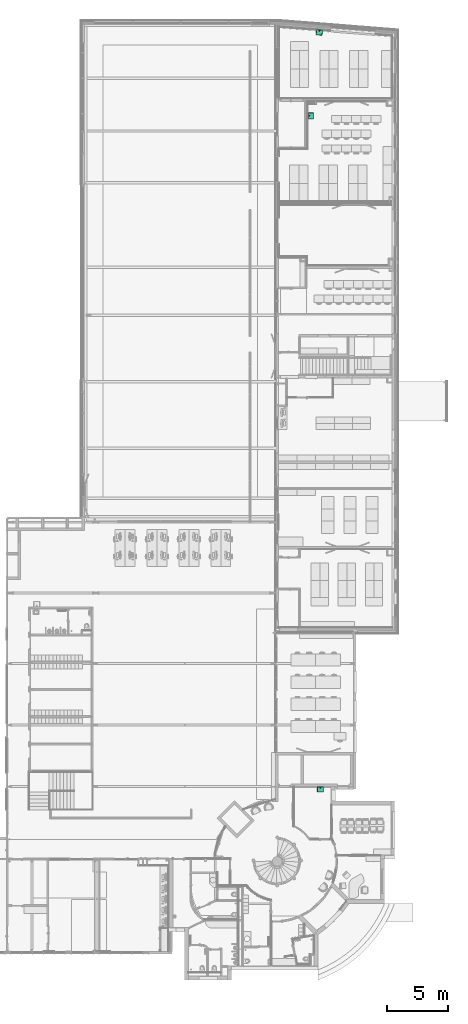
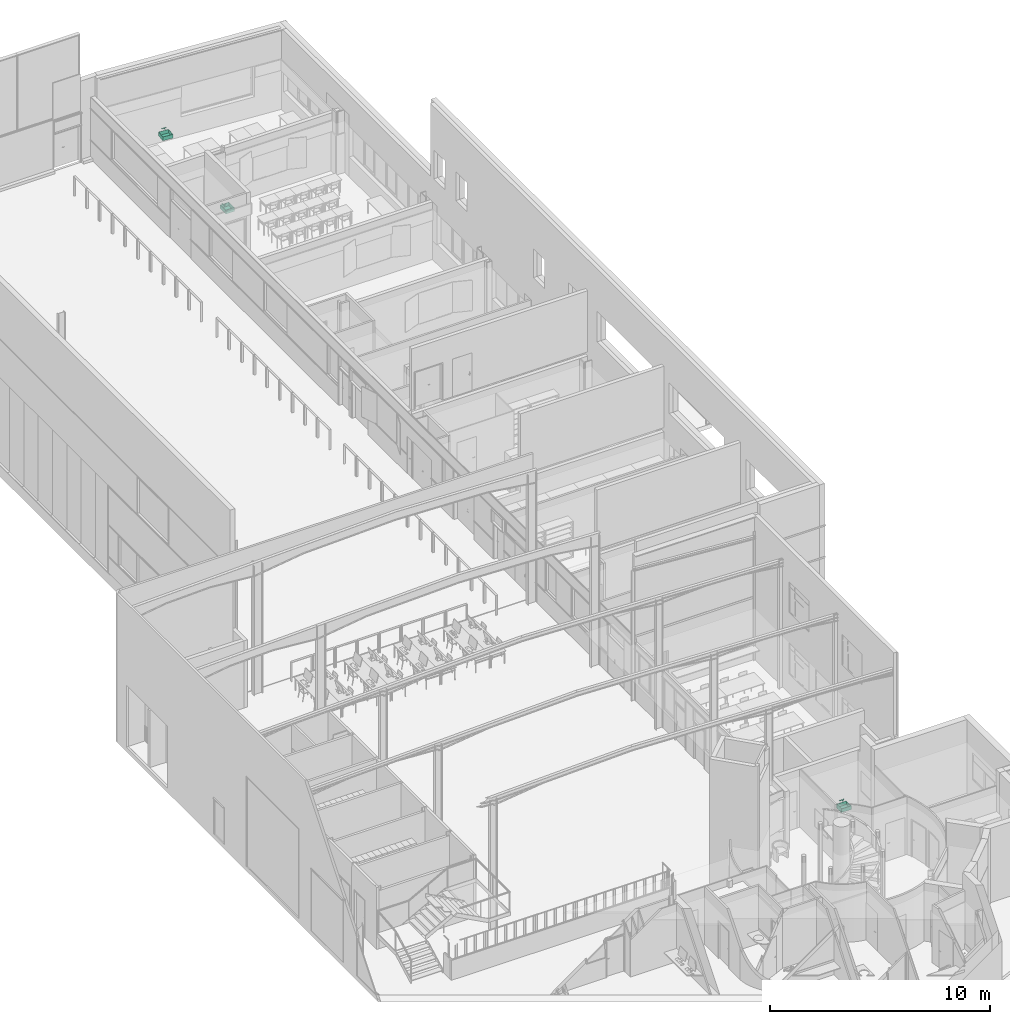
# One storey, part 112 of 137: 3 flow terminals.
"""IFC2X3 building model written with IfcOpenShell, lengths in centimetres."""

from ifc_helpers import new_model, entity, si_unit, converted_unit, derived_unit, direction, frame, origin, place, context, subcontext, project, spatial, faceted_brep, source, transform, mapped, element, save


model = new_model("IFC2X3")

# Units and contexts
model_context = context("Model", 3, precision=0.001, world=origin(), true_north=direction((6.12303176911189e-17, 1.0)))
body_context = subcontext(model_context, "Body", "Model", "MODEL_VIEW")
ifc_project = project(units=[si_unit("LENGTHUNIT", "METRE", prefix="CENTI"), si_unit("AREAUNIT", "SQUARE_METRE"), si_unit("VOLUMEUNIT", "CUBIC_METRE"), converted_unit("PLANEANGLEUNIT", "DEGREE", entity("IfcRatioMeasure", 0.0174532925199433), si_unit("PLANEANGLEUNIT", "RADIAN"), dimensions=[0, 0, 0, 0, 0, 0, 0]), si_unit("MASSUNIT", "GRAM", prefix="KILO"), si_unit("TIMEUNIT", "SECOND"), si_unit("FREQUENCYUNIT", "HERTZ"), si_unit("THERMODYNAMICTEMPERATUREUNIT", "DEGREE_CELSIUS"), derived_unit("THERMALTRANSMITTANCEUNIT", [(si_unit("MASSUNIT", "GRAM", prefix="KILO"), 1), (si_unit("THERMODYNAMICTEMPERATUREUNIT", "KELVIN"), -1), (si_unit("TIMEUNIT", "SECOND"), -3)]), derived_unit("VOLUMETRICFLOWRATEUNIT", [(si_unit("LENGTHUNIT", "METRE"), 3), (si_unit("TIMEUNIT", "SECOND"), -1)]), si_unit("ELECTRICCURRENTUNIT", "AMPERE"), si_unit("ELECTRICVOLTAGEUNIT", "VOLT"), si_unit("POWERUNIT", "WATT"), si_unit("FORCEUNIT", "NEWTON", prefix="KILO"), si_unit("ILLUMINANCEUNIT", "LUX"), si_unit("LUMINOUSFLUXUNIT", "LUMEN"), si_unit("LUMINOUSINTENSITYUNIT", "CANDELA"), derived_unit("USERDEFINED", [(si_unit("MASSUNIT", "GRAM", prefix="KILO"), -1), (si_unit("LENGTHUNIT", "METRE"), -2), (si_unit("TIMEUNIT", "SECOND"), 3), (si_unit("LUMINOUSFLUXUNIT", "LUMEN"), 1)]), derived_unit("LINEARVELOCITYUNIT", [(si_unit("LENGTHUNIT", "METRE"), 1), (si_unit("TIMEUNIT", "SECOND"), -1)]), si_unit("PRESSUREUNIT", "PASCAL"), derived_unit("USERDEFINED", [(si_unit("LENGTHUNIT", "METRE"), -2), (si_unit("MASSUNIT", "GRAM", prefix="KILO"), 1), (si_unit("TIMEUNIT", "SECOND"), -2)])], contexts=[model_context])

# Site, building, storey, space
site_placement = place(None, frame((8.62739174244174, -249.285249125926, 0.0)))
site = spatial("IfcSite", under=ifc_project, at=site_placement, Name="Default", CompositionType="ELEMENT")
building_placement = place(site_placement, origin())
building = spatial("IfcBuilding", under=site, at=building_placement, CompositionType="ELEMENT")
storey_placement = place(building_placement, origin())
storey = spatial("IfcBuildingStorey", under=building, at=storey_placement, Name="RDC", CompositionType="ELEMENT", Elevation=-8.82465566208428e-11)
space_1_placement = place(storey_placement, origin())
space_1 = spatial("IfcSpace", under=storey, at=space_1_placement, Name="046", CompositionType="ELEMENT", InteriorOrExteriorSpace="INTERNAL")

# Flow terminal
shared_shape = source(origin(), body_context, "Body", "Brep", [
    faceted_brep([(25.5000000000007, 0.0, 20.6175000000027), (-25.4999999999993, 0.0, 20.6175000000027), (-25.4999999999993, -45.5000000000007, 20.6175000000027), (25.5000000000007, -45.5000000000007, 20.6175000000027), (24.2300000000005, -1.27000000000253, 20.6175000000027), (24.2300000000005, -44.2300000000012, 20.6175000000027), (-24.2299999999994, -44.2300000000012, 20.6175000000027), (-24.2299999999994, -1.27000000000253, 20.6175000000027), (25.5000000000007, 0.0, 19.3475000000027), (25.5000000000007, -45.5000000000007, 19.3475000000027), (-25.4999999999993, -45.5000000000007, 19.3475000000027), (-25.4999999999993, 0.0, 19.3475000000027), (24.2300000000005, -1.27000000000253, 19.3475000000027), (-24.2299999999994, -1.27000000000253, 19.3475000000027), (-24.2299999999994, -44.2300000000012, 19.3475000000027), (24.2300000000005, -44.2300000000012, 19.3475000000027)], [[[0, 1, 2, 3], [4, 5, 6, 7]], [[8, 9, 10, 11], [12, 13, 14, 15]], [[1, 0, 8, 11]], [[2, 1, 11, 10]], [[3, 2, 10, 9]], [[0, 3, 9, 8]], [[5, 4, 12, 15]], [[6, 5, 15, 14]], [[7, 6, 14, 13]], [[4, 7, 13, 12]]]),
    faceted_brep([(2.19970452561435, -13.9700000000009, 0.317499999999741), (2.45345159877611, -13.3574003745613, 0.317499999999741), (2.54000000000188, -12.7000000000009, 0.317499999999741), (2.45345159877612, -12.0425996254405, 0.317499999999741), (2.19970452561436, -11.4300000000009, 0.317499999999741), (1.79605122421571, -10.9039487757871, 0.317499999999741), (1.27000000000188, -10.5002954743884, 0.317499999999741), (0.657400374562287, -10.2465484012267, 0.317499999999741), (0.0, -10.1600000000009, 0.317499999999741), (-0.657400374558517, -10.2465484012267, 0.317499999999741), (-1.26999999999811, -10.5002954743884, 0.317499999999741), (-1.79605122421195, -10.9039487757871, 0.317499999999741), (-2.19970452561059, -11.4300000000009, 0.317499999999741), (-2.45345159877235, -12.0425996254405, 0.317499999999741), (-2.53999999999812, -12.7000000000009, 0.317499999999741), (-2.45345159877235, -13.3574003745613, 0.317499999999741), (-2.1997045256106, -13.9700000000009, 0.317499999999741), (-1.79605122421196, -14.4960512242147, 0.317499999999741), (-1.26999999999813, -14.8997045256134, 0.317499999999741), (-0.657400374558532, -15.1534515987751, 0.317499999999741), (0.0, -15.2400000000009, 0.317499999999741), (0.657400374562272, -15.1534515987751, 0.317499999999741), (1.27000000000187, -14.8997045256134, 0.317499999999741), (1.7960512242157, -14.4960512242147, 0.317499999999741), (-0.657400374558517, -10.2465484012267, 0.0), (0.0, -10.1600000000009, 0.0), (0.657400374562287, -10.2465484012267, 0.0), (1.27000000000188, -10.5002954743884, 0.0), (1.79605122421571, -10.9039487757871, 0.0), (2.19970452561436, -11.4300000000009, 0.0), (2.45345159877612, -12.0425996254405, 0.0), (2.54000000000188, -12.7000000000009, 0.0), (2.45345159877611, -13.3574003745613, 0.0), (2.19970452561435, -13.9700000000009, 0.0), (1.7960512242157, -14.4960512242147, 0.0), (1.27000000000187, -14.8997045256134, 0.0), (0.657400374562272, -15.1534515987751, 0.0), (0.0, -15.2400000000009, 0.0), (-0.657400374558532, -15.1534515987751, 0.0), (-1.26999999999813, -14.8997045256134, 0.0), (-1.79605122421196, -14.4960512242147, 0.0), (-2.1997045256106, -13.9700000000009, 0.0), (-2.45345159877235, -13.3574003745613, 0.0), (-2.53999999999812, -12.7000000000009, 0.0), (-2.45345159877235, -12.0425996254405, 0.0), (-2.19970452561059, -11.4300000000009, 0.0), (-1.79605122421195, -10.9039487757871, 0.0), (-1.26999999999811, -10.5002954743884, 0.0)], [[[0, 1, 2, 3, 4, 5, 6, 7, 8, 9, 10, 11, 12, 13, 14, 15, 16, 17, 18, 19, 20, 21, 22, 23]], [[24, 25, 26, 27, 28, 29, 30, 31, 32, 33, 34, 35, 36, 37, 38, 39, 40, 41, 42, 43, 44, 45, 46, 47]], [[42, 15, 14, 43]], [[41, 16, 15, 42]], [[18, 17, 40, 39]], [[41, 40, 17, 16]], [[19, 18, 39, 38]], [[20, 19, 38, 37]], [[36, 21, 20, 37]], [[35, 22, 21, 36]], [[0, 23, 34, 33]], [[35, 34, 23, 22]], [[1, 0, 33, 32]], [[2, 1, 32, 31]], [[30, 3, 2, 31]], [[29, 4, 3, 30]], [[6, 5, 28, 27]], [[29, 28, 5, 4]], [[7, 6, 27, 26]], [[8, 7, 26, 25]], [[24, 9, 8, 25]], [[47, 10, 9, 24]], [[12, 11, 46, 45]], [[47, 46, 11, 10]], [[13, 12, 45, 44]], [[14, 13, 44, 43]]]),
    faceted_brep([(25.5000000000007, 0.0, 19.3475000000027), (-25.4999999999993, 0.0, 19.3475000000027), (-25.4999999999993, -45.5000000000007, 19.3475000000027), (25.5000000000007, -45.5000000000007, 19.3475000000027), (25.1825000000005, -0.31750000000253, 19.3475000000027), (25.1825000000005, -45.1825000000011, 19.3475000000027), (-25.1824999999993, -45.1825000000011, 19.3475000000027), (-25.1824999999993, -0.317500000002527, 19.3475000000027), (25.5000000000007, 0.0, 0.0), (25.5000000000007, -45.5000000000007, 0.0), (-25.4999999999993, -45.5000000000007, 0.0), (-25.4999999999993, 0.0, 0.0), (25.1825000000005, -0.31750000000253, 0.317499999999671), (25.1825000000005, -45.1825000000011, 0.317499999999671), (-25.1824999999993, -45.1825000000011, 0.317499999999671), (-25.1824999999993, -0.317500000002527, 0.317499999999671)], [[[0, 1, 2, 3], [4, 5, 6, 7]], [[8, 9, 10, 11]], [[1, 0, 8, 11]], [[2, 1, 11, 10]], [[3, 2, 10, 9]], [[0, 3, 9, 8]], [[5, 4, 12, 13]], [[6, 5, 13, 14]], [[7, 6, 14, 15]], [[4, 7, 15, 12]], [[13, 12, 15, 14]]]),
    faceted_brep([(-9.83129981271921, -4.08422579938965, 38.4099999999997), (-9.52499999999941, -3.95735226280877, 38.4099999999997), (-9.26197438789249, -3.75552561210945, 38.4099999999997), (-9.06014773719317, -3.49250000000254, 38.4099999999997), (-8.93327420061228, -3.18620018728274, 38.4099999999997), (-8.8899999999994, -2.85750000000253, 38.4099999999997), (-8.93327420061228, -2.52879981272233, 38.4099999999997), (-9.06014773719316, -2.22250000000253, 38.4099999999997), (-9.26197438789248, -1.95947438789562, 38.4099999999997), (-9.5249999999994, -1.75764773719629, 38.4099999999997), (-9.8312998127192, -1.63077420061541, 38.4099999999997), (-10.1599999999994, -1.58750000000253, 38.4099999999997), (-10.4887001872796, -1.63077420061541, 38.4099999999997), (-10.7949999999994, -1.75764773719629, 38.4099999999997), (-11.0580256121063, -1.95947438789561, 38.4099999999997), (-11.2598522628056, -2.22250000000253, 38.4099999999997), (-11.3867257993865, -2.52879981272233, 38.4099999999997), (-11.4299999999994, -2.85750000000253, 38.4099999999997), (-11.3867257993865, -3.18620018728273, 38.4099999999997), (-11.2598522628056, -3.49250000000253, 38.4099999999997), (-11.0580256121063, -3.75552561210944, 38.4099999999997), (-10.7949999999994, -3.95735226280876, 38.4099999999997), (-10.4887001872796, -4.08422579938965, 38.4099999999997), (-10.1599999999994, -4.12750000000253, 38.4099999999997), (1.90500000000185, -14.6050000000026, 38.4099999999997), (1.90500000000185, -1.27000000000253, 38.4099999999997), (-1.90499999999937, -1.27000000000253, 38.4099999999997), (-1.90499999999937, -14.6050000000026, 38.4099999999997), (10.7950000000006, -3.95735226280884, 38.4099999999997), (11.0580256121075, -3.75552561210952, 38.4099999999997), (11.2598522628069, -3.4925000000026, 38.4099999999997), (11.3867257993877, -3.18620018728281, 38.4099999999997), (11.4300000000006, -2.8575000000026, 38.4099999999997), (11.3867257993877, -2.5287998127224, 38.4099999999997), (11.2598522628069, -2.2225000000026, 38.4099999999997), (11.0580256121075, -1.95947438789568, 38.4099999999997), (10.7950000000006, -1.75764773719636, 38.4099999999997), (10.4887001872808, -1.63077420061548, 38.4099999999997), (10.1600000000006, -1.5875000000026, 38.4099999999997), (9.83129981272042, -1.63077420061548, 38.4099999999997), (9.52500000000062, -1.75764773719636, 38.4099999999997), (9.26197438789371, -1.95947438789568, 38.4099999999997), (9.06014773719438, -2.22250000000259, 38.4099999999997), (8.9332742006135, -2.52879981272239, 38.4099999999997), (8.89000000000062, -2.85750000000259, 38.4099999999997), (8.9332742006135, -3.18620018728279, 38.4099999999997), (9.06014773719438, -3.49250000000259, 38.4099999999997), (9.2619743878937, -3.75552561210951, 38.4099999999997), (9.52500000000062, -3.95735226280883, 38.4099999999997), (9.83129981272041, -4.08422579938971, 38.4099999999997), (10.1600000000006, -4.1275000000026, 38.4099999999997), (10.4887001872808, -4.08422579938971, 38.4099999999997), (-8.25499999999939, -1.27000000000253, 36.5049999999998), (-8.25499999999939, 0.0, 36.5049999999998), (-9.52499999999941, -1.75764773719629, 36.5049999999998), (-9.26197438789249, -1.95947438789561, 36.5049999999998), (-9.06014773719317, -2.22250000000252, 36.5049999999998), (-8.93327420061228, -2.52879981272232, 36.5049999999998), (-8.8899999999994, -2.85750000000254, 36.5049999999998), (-1.90499999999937, -4.44500000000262, 36.5049999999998), (-1.90499999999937, -1.27000000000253, 36.5049999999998), (-9.83129981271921, -1.63077420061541, 36.5049999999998), (-10.1599999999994, -1.58750000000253, 36.5049999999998), (-12.0649999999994, 0.0, 36.5049999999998), (-10.4887001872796, -1.63077420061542, 36.5049999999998), (-10.7949999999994, -1.7576477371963, 36.5049999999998), (-11.0580256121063, -1.95947438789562, 36.5049999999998), (-11.2598522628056, -2.22250000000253, 36.5049999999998), (-11.3867257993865, -2.52879981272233, 36.5049999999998), (-11.4299999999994, -2.85750000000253, 36.5049999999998), (-12.0649999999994, -4.44500000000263, 36.5049999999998), (-11.3867257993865, -3.18620018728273, 36.5049999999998), (-11.2598522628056, -3.49250000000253, 36.5049999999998), (-11.0580256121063, -3.75552561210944, 36.5049999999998), (-10.7949999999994, -3.95735226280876, 36.5049999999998), (-10.4887001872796, -4.08422579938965, 36.5049999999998), (-10.1599999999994, -4.12750000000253, 36.5049999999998), (-8.93327420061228, -3.18620018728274, 36.5049999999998), (-9.06014773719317, -3.49250000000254, 36.5049999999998), (-9.26197438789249, -3.75552561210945, 36.5049999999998), (-9.52499999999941, -3.95735226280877, 36.5049999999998), (-9.83129981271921, -4.08422579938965, 36.5049999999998), (12.0650000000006, 0.0, 36.5049999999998), (11.2598522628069, -2.22250000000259, 36.5049999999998), (11.3867257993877, -2.52879981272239, 36.5049999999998), (11.0580256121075, -1.95947438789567, 36.5049999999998), (11.4300000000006, -2.8575000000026, 36.5049999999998), (10.7950000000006, -1.75764773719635, 36.5049999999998), (10.4887001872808, -1.63077420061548, 36.5049999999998), (10.1600000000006, -1.5875000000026, 36.5049999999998), (8.25500000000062, 0.0, 36.5049999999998), (12.0650000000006, -4.44500000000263, 36.5049999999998), (9.83129981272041, -1.63077420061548, 36.5049999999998), (9.52500000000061, -1.75764773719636, 36.5049999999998), (8.25500000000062, -1.27000000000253, 36.5049999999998), (9.2619743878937, -1.95947438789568, 36.5049999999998), (9.06014773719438, -2.2225000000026, 36.5049999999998), (8.9332742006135, -2.5287998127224, 36.5049999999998), (8.89000000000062, -2.8575000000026, 36.5049999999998), (1.90500000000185, -4.44500000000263, 36.5049999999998), (1.90500000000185, -1.27000000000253, 36.5049999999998), (10.1600000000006, -4.1275000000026, 36.5049999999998), (8.9332742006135, -3.18620018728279, 36.5049999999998), (9.06014773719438, -3.49250000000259, 36.5049999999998), (9.2619743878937, -3.75552561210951, 36.5049999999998), (9.52500000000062, -3.95735226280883, 36.5049999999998), (9.83129981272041, -4.08422579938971, 36.5049999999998), (10.4887001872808, -4.08422579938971, 36.5049999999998), (11.3867257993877, -3.18620018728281, 36.5049999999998), (11.2598522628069, -3.4925000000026, 36.5049999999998), (11.0580256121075, -3.75552561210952, 36.5049999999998), (10.7950000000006, -3.95735226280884, 36.5049999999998), (-1.09985226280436, -12.0650000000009, 36.5049999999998), (-1.22672579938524, -12.3712998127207, 36.5049999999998), (-0.898025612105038, -11.801974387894, 36.5049999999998), (-1.90499999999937, -14.6050000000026, 36.5049999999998), (-0.634999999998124, -11.6001477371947, 36.5049999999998), (-0.328700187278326, -11.4732742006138, 36.5049999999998), (0.0, -11.4300000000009, 36.5049999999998), (0.328700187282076, -11.4732742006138, 36.5049999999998), (0.635000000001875, -11.6001477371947, 36.5049999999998), (0.898025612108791, -11.801974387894, 36.5049999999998), (1.09985226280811, -12.0650000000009, 36.5049999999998), (1.226725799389, -12.3712998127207, 36.5049999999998), (1.90500000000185, -14.6050000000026, 36.5049999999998), (1.27000000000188, -12.7000000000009, 36.5049999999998), (1.226725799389, -13.0287001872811, 36.5049999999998), (1.09985226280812, -13.3350000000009, 36.5049999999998), (0.898025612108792, -13.5980256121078, 36.5049999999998), (0.635000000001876, -13.7998522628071, 36.5049999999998), (0.328700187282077, -13.926725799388, 36.5049999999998), (0.0, -13.9700000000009, 36.5049999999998), (-1.26999999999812, -12.7000000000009, 36.5049999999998), (-1.22672579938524, -13.0287001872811, 36.5049999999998), (-1.09985226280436, -13.3350000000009, 36.5049999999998), (-0.898025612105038, -13.5980256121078, 36.5049999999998), (-0.634999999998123, -13.7998522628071, 36.5049999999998), (-0.328700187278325, -13.926725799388, 36.5049999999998), (8.25500000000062, -1.27000000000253, 34.5999999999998), (-8.25499999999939, -1.27000000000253, 34.5999999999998), (-0.634999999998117, -11.6001477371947, 34.5999999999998), (-0.328700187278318, -11.4732742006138, 34.5999999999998), (0.0, -11.4300000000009, 34.5999999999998), (0.328700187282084, -11.4732742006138, 34.5999999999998), (0.635000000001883, -11.6001477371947, 34.5999999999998), (0.898025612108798, -11.801974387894, 34.5999999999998), (1.09985226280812, -12.0650000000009, 34.5999999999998), (1.226725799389, -12.3712998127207, 34.5999999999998), (1.27000000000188, -12.7000000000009, 34.5999999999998), (1.226725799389, -13.0287001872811, 34.5999999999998), (1.09985226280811, -13.3350000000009, 34.5999999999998), (0.898025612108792, -13.5980256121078, 34.5999999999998), (0.635000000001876, -13.7998522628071, 34.5999999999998), (0.328700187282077, -13.926725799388, 34.5999999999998), (0.0, -13.9700000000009, 34.5999999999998), (-0.328700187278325, -13.926725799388, 34.5999999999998), (-0.634999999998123, -13.7998522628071, 34.5999999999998), (-0.898025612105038, -13.5980256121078, 34.5999999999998), (-1.09985226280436, -13.3350000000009, 34.5999999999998), (-1.22672579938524, -13.0287001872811, 34.5999999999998), (-1.26999999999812, -12.7000000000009, 34.5999999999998), (-1.22672579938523, -12.3712998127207, 34.5999999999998), (-1.09985226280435, -12.0650000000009, 34.5999999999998), (-0.898025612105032, -11.801974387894, 34.5999999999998), (-12.0649999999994, 0.0, 34.5999999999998), (-8.25499999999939, 0.0, 34.5999999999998), (8.25500000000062, 0.0, 34.5999999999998), (12.0650000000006, 0.0, 34.5999999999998), (12.0650000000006, -4.44500000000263, 34.5999999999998), (-12.0649999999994, -4.44500000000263, 34.5999999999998)], [[[0, 1, 2, 3, 4, 5, 6, 7, 8, 9, 10, 11, 12, 13, 14, 15, 16, 17, 18, 19, 20, 21, 22, 23]], [[24, 25, 26, 27]], [[28, 29, 30, 31, 32, 33, 34, 35, 36, 37, 38, 39, 40, 41, 42, 43, 44, 45, 46, 47, 48, 49, 50, 51]], [[52, 53, 54]], [[54, 55, 52]], [[55, 56, 52]], [[57, 52, 56]], [[58, 52, 57]], [[58, 59, 52]], [[59, 60, 52]], [[61, 54, 53]], [[53, 62, 61]], [[62, 53, 63]], [[64, 62, 63]], [[65, 64, 63]], [[63, 66, 65]], [[66, 63, 67]], [[68, 67, 63]], [[63, 69, 68]], [[69, 63, 70]], [[71, 69, 70]], [[70, 72, 71]], [[72, 70, 73]], [[74, 73, 70]], [[74, 70, 75]], [[76, 75, 70]], [[76, 70, 59]], [[77, 59, 58]], [[59, 77, 78]], [[78, 79, 59]], [[79, 80, 59]], [[80, 81, 59]], [[59, 81, 76]], [[52, 53, 54]], [[54, 55, 52]], [[55, 56, 52]], [[57, 52, 56]], [[58, 52, 57]], [[58, 59, 52]], [[59, 60, 52]], [[61, 54, 53]], [[53, 62, 61]], [[62, 53, 63]], [[64, 62, 63]], [[65, 64, 63]], [[63, 66, 65]], [[66, 63, 67]], [[68, 67, 63]], [[63, 69, 68]], [[69, 63, 70]], [[71, 69, 70]], [[70, 72, 71]], [[72, 70, 73]], [[74, 73, 70]], [[74, 70, 75]], [[76, 75, 70]], [[76, 70, 59]], [[77, 59, 58]], [[59, 77, 78]], [[78, 79, 59]], [[79, 80, 59]], [[80, 81, 59]], [[59, 81, 76]], [[82, 83, 84]], [[83, 82, 85]], [[82, 84, 86]], [[87, 85, 82]], [[88, 87, 82]], [[89, 88, 82]], [[82, 90, 89]], [[86, 91, 82]], [[92, 89, 90]], [[93, 92, 90]], [[94, 93, 90]], [[95, 93, 94]], [[96, 95, 94]], [[97, 96, 94]], [[97, 94, 98]], [[94, 99, 98]], [[94, 100, 99]], [[91, 101, 99]], [[99, 102, 98]], [[102, 99, 103]], [[104, 103, 99]], [[104, 99, 105]], [[106, 105, 99]], [[106, 99, 101]], [[107, 101, 91]], [[86, 108, 91]], [[109, 91, 108]], [[91, 109, 110]], [[110, 111, 91]], [[111, 107, 91]], [[59, 112, 113]], [[112, 59, 114]], [[59, 113, 115]], [[116, 114, 59]], [[117, 116, 59]], [[118, 117, 59]], [[59, 99, 118]], [[119, 118, 99]], [[120, 119, 99]], [[121, 120, 99]], [[99, 122, 121]], [[122, 99, 123]], [[123, 99, 124]], [[124, 125, 123]], [[126, 125, 124]], [[127, 126, 124]], [[124, 128, 127]], [[128, 124, 129]], [[130, 129, 124]], [[131, 130, 124]], [[131, 124, 115]], [[132, 115, 113]], [[115, 132, 133]], [[115, 133, 134]], [[134, 135, 115]], [[135, 136, 115]], [[136, 137, 115]], [[115, 137, 131]], [[25, 100, 94, 138, 139, 52, 60, 26]], [[27, 26, 60, 59, 115]], [[24, 27, 115, 124]], [[25, 24, 124, 99, 100]], [[140, 141, 142, 143, 144, 145, 146, 147, 148, 149, 150, 151, 152, 153, 154, 155, 156, 157, 158, 159, 160, 161, 162, 163]], [[164, 165, 139, 138, 166, 167, 168, 169]], [[159, 133, 132, 160]], [[158, 134, 133, 159]], [[136, 135, 157, 156]], [[158, 157, 135, 134]], [[137, 136, 156, 155]], [[131, 137, 155, 154]], [[130, 131, 154, 153]], [[129, 130, 153, 152]], [[127, 150, 149, 126]], [[126, 149, 148, 125]], [[129, 152, 151, 128]], [[151, 150, 127, 128]], [[147, 123, 125, 148]], [[146, 122, 123, 147]], [[120, 121, 145, 144]], [[146, 145, 121, 122]], [[119, 120, 144, 143]], [[118, 119, 143, 142]], [[116, 140, 163, 114]], [[112, 162, 161, 113]], [[163, 162, 112, 114]], [[113, 161, 160, 132]], [[140, 116, 117, 141]], [[117, 118, 142, 141]], [[63, 53, 165, 164]], [[90, 82, 167, 166]], [[70, 63, 164, 169]], [[91, 99, 59, 70, 169, 168]], [[82, 91, 168, 167]], [[94, 90, 166, 138]], [[53, 52, 139, 165]], [[71, 18, 17, 69]], [[72, 19, 18, 71]], [[21, 20, 73, 74]], [[72, 73, 20, 19]], [[22, 21, 74, 75]], [[23, 22, 75, 76]], [[81, 0, 23, 76]], [[80, 1, 0, 81]], [[3, 2, 79, 78]], [[80, 79, 2, 1]], [[4, 3, 78, 77]], [[5, 4, 77, 58]], [[57, 6, 5, 58]], [[56, 7, 6, 57]], [[9, 8, 55, 54]], [[56, 55, 8, 7]], [[10, 9, 54, 61]], [[11, 10, 61, 62]], [[64, 12, 11, 62]], [[65, 13, 12, 64]], [[15, 14, 66, 67]], [[65, 66, 14, 13]], [[16, 15, 67, 68]], [[17, 16, 68, 69]], [[102, 45, 44, 98]], [[103, 46, 45, 102]], [[48, 47, 104, 105]], [[103, 104, 47, 46]], [[49, 48, 105, 106]], [[50, 49, 106, 101]], [[107, 51, 50, 101]], [[111, 28, 51, 107]], [[109, 30, 29, 110]], [[110, 29, 28, 111]], [[108, 31, 30, 109]], [[32, 31, 108, 86]], [[84, 33, 32, 86]], [[83, 34, 33, 84]], [[36, 35, 85, 87]], [[83, 85, 35, 34]], [[37, 36, 87, 88]], [[38, 37, 88, 89]], [[39, 38, 89, 92]], [[93, 40, 39, 92]], [[41, 95, 96, 42]], [[93, 95, 41, 40]], [[42, 96, 97, 43]], [[44, 43, 97, 98]]]),
])
flow_terminal_1_placement = place(space_1_placement, frame((3393.90482780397, 1361.98020807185, 40.0)))
element("IfcFlowTerminal", 1, at=flow_terminal_1_placement, inside=space_1, Name="Evier - Professionnel:510 mmx455 mm", ObjectType="510 mmx455 mm", context=body_context, shape_type="MappedRepresentation", body=[
    mapped(shared_shape, transform((0.0, 0.0, 0.0), scale=1.0)),
])

# Space
space_2_placement = place(storey_placement, origin())
space_2 = spatial("IfcSpace", under=storey, at=space_2_placement, Name="055", CompositionType="ELEMENT", InteriorOrExteriorSpace="INTERNAL")

# Flow terminal
flow_terminal_2_placement = place(space_2_placement, frame((3387.86693631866, 7516.5403467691, 40.0), z_axis=(0.0, 0.0, 1.0), x_axis=(0.996194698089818, -0.0871557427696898, 0.0)))
element("IfcFlowTerminal", 2, at=flow_terminal_2_placement, inside=space_2, Name="Evier - Professionnel:510 mmx455 mm", ObjectType="510 mmx455 mm", context=body_context, shape_type="MappedRepresentation", body=[
    mapped(shared_shape, transform((0.0, 0.0, 0.0), scale=1.0)),
])

# Space
space_3_placement = place(storey_placement, origin())
space_3 = spatial("IfcSpace", under=storey, at=space_3_placement, Name="056", CompositionType="ELEMENT", InteriorOrExteriorSpace="INTERNAL")

# Flow terminal
flow_terminal_3_placement = place(space_3_placement, frame((3295.1048175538, 6815.64764217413, 70.0), z_axis=(0.0, 0.0, 1.0), x_axis=(0.0, 1.0, 0.0)))
element("IfcFlowTerminal", 3, at=flow_terminal_3_placement, inside=space_3, Name="Evier - Professionnel:510 mmx455 mm", ObjectType="510 mmx455 mm", context=body_context, shape_type="MappedRepresentation", body=[
    mapped(shared_shape, transform((0.0, 0.0, 0.0), scale=1.0)),
])

save(model, "model.ifc")
